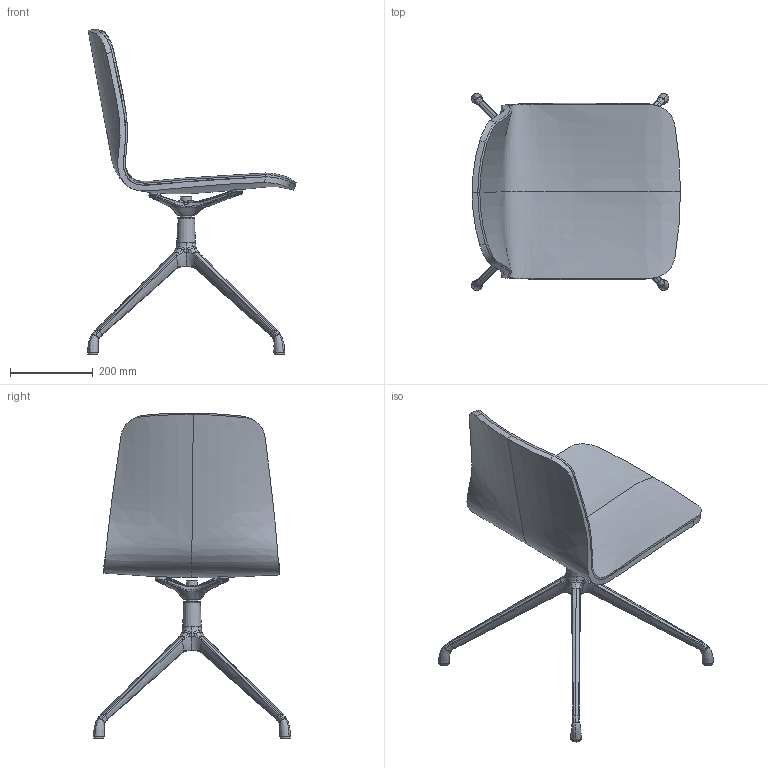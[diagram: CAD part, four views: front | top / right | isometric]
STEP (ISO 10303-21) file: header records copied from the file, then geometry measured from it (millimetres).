
FILE_DESCRIPTION( ('This file contains a STEP AP42 implementation' ,'as created by ZW3D STEP Interface translator.') ,'2;1' );
FILE_NAME( 'ELIOTT-CHAISE-4-BRANCHES.stp' ,'24 911.112034', (''), ('ZWCAD Software Co.'), 'Version 1.0', 'ZW3D to STEP translator', '' );
FILE_SCHEMA(('AUTOMOTIVE_DESIGN { 1 0 10303 214 1 1 1 1 }'));
Length unit declared in the file: millimetre
Products named in the file (8): 0; ALCOR-H + SM835; ALCOR-H-660; TS34-125; spindelbuis-34mm; spindellager-34mm; spindel-lang-34mm; pootdop-25mm
Assembly tree (9 placements, depth 3):
  0
  ALCOR-H + SM835
    ALCOR-H-660
    TS34-125
      spindelbuis-34mm
      spindellager-34mm
      spindel-lang-34mm
    pootdop-25mm  x4
Bounding box: 505.55 x 477.01 x 788.44 mm (x, y, z)
Volume: 6932957.6 mm3; surface area: 1540808.1 mm2
Topology: 11 solids, 11 shells, 634 faces, 1585 edges, 989 vertices
Faces by surface type: bspline 562, plane 33, cylinder 17, cone 12, torus 10
Full cylindrical faces by diameter (mm): 8 x2, 11 x4, 25 x4, 28 x2, 31 x2, 34 x3
Entity records: 139839 total; most frequent: CARTESIAN_POINT 128920, ORIENTED_EDGE 3084, EDGE_CURVE 1542, B_SPLINE_CURVE_WITH_KNOTS 1106, VERTEX_POINT 957, EDGE_LOOP 645, FACE_OUTER_BOUND 616, ADVANCED_FACE 616
